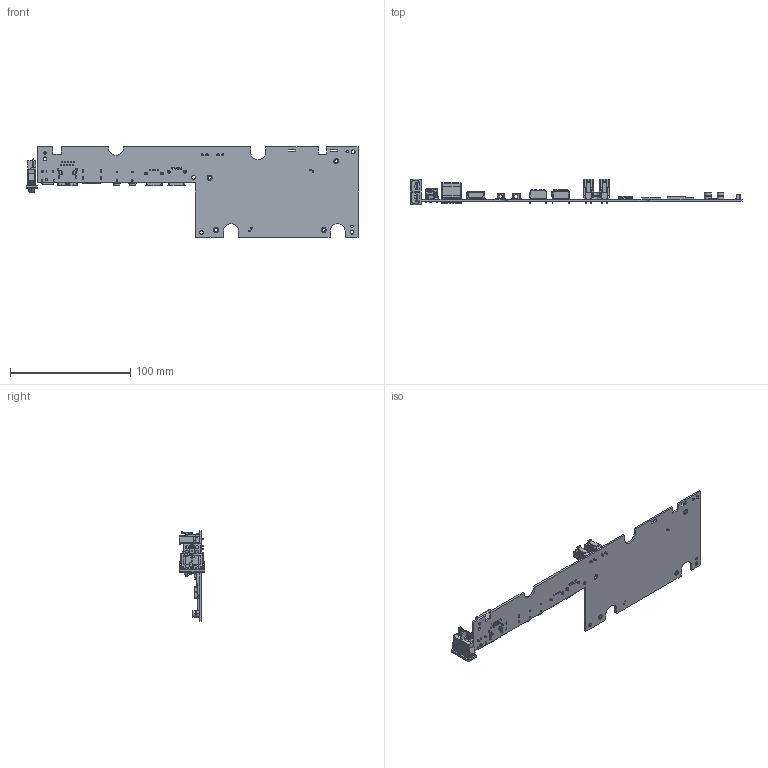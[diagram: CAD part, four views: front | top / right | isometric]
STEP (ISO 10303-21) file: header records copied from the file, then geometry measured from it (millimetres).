
FILE_DESCRIPTION((''),'2;1');
FILE_NAME('SWAN_PCB_ASSEMBLY_ASM','2020-12-04T',('g6007893'),(''),'CREO PARAMETRIC BY PTC INC, 2014350','CREO PARAMETRIC BY PTC INC, 2014350','');
FILE_SCHEMA(('CONFIG_CONTROL_DESIGN'));
Products named in the file (60): SWAN_PCB; SHD-6012D01-BLTN-T1-CUSTOMER; F860; MSBR-21; MSBR-20; MSBR-19; MSBR-18; MSBR-17; MSBR-16; MSBR-15; MSBR-14; MSBR-13; MSBR-12; MSBR-11; MSBR-10; MSBR-9; MSBR-8; MSBR-7; MSBR-6; MSBR-5; MSBR-4; MSBR-3; MSBR-2; MSBR-1; QJ-WFB4-IM_0325_ASM; 2SJ2296-000111; MSBR-1-011; _UB1112C-4K1-4F_3D-01; UB1112C-4K1-4F_3D-01_ASM; UEA1112C-4HK1-4F_3D; 86514-02XX_REV-1; TBGA-14X14-153-H0_8; UBGA-35X35-463S0; FBGA-16X9-96CS0; STAND-NUT-411-00041-005; HS6F2JZ_5_1_1-01; JCP_2_2_1_1-01; ZJ_2_1_1-01; HS8A03S001-AN_8_1_1-01; HS6-F2-01Q100-BB26_1_111_ASM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
Assembly tree (69 placements, depth 3):
  SWAN_PCB_ASSEMBLY_ASM
    SWAN_PCB
    SHD-6012D01-BLTN-T1-CUSTOMER
    F860
    QJ-WFB4-IM_0325_ASM
      MSBR-21
      MSBR-20
      MSBR-19
      MSBR-18
      MSBR-17
      MSBR-16
      MSBR-15
      MSBR-14
      MSBR-13
      MSBR-12
      MSBR-11
      MSBR-10
      MSBR-9
      MSBR-8
      MSBR-7
      MSBR-6
      MSBR-5
      MSBR-4
      MSBR-3
      MSBR-2
      MSBR-1
    2SJ2296-000111  x2
    UB1112C-4K1-4F_3D-01_ASM
      MSBR-1-011
      _UB1112C-4K1-4F_3D-01
    UEA1112C-4HK1-4F_3D
    86514-02XX_REV-1  x2
    TBGA-14X14-153-H0_8
    UBGA-35X35-463S0
    FBGA-16X9-96CS0  x4
    STAND-NUT-411-00041-005  x4
    HS6-F2-01Q100-BB26_1_111_ASM
      HS6F2JZ_5_1_1-01
      JCP_2_2_1_1-01
      ZJ_2_1_1-01
      HS8A03S001-AN_8_1_1-01
    HS6110E-10PIN_ASM  x2
      MSBR-13-001
      MSBR-12-001
      MSBR-11-001
      MSBR-10-001
      MSBR-9-001
      MSBR-8-001
      MSBR-7-001
      MSBR-6-001
      MSBR-5-001
      MSBR-4-001
      MSBR-3-001
      MSBR-2-001
      MSBR-1-001
    HS6108E-8PIN-VERTICAL
    S-51282-002HXXX-XXX  x2
    ANT_CONNECTOR
    FH41-15S-0_5SH
    CABLE-POWER-SWITCH-01
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Bounding box: 275.78 x 21.5 x 75 mm (x, y, z)
Volume: 31128.1 mm3; surface area: 53835.5 mm2
Topology: 75 solids, 104 shells, 10575 faces, 29867 edges, 19503 vertices
Faces by surface type: plane 7797, cylinder 2318, bspline 123, extrusion 122, cone 105, sphere 66, torus 44
Entity records: 332898 total; most frequent: CARTESIAN_POINT 60357, ORIENTED_EDGE 50526, DIRECTION 46330, EDGE_CURVE 25263, VECTOR 20546, LINE 20424, VERTEX_POINT 16516, AXIS2_PLACEMENT_3D 12892
